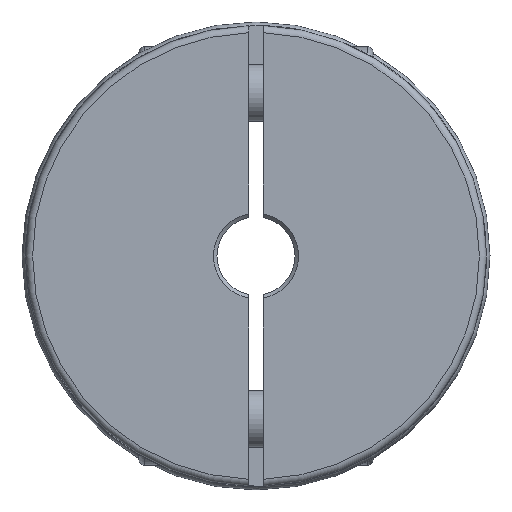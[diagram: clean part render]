
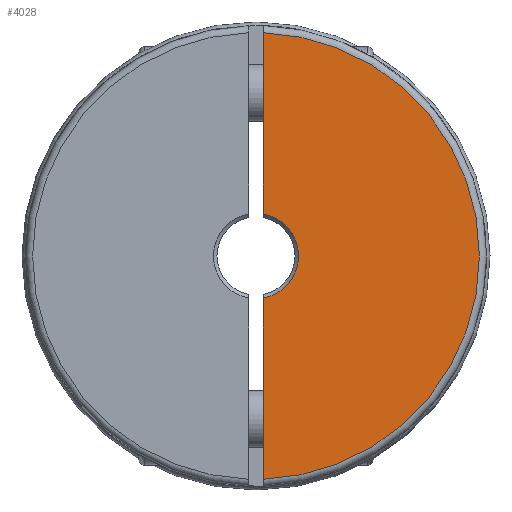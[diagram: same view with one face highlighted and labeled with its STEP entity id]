
A CAD part, left-side view. The second image highlights one B-rep face of the part: STEP entity #4028.
In plain terms, the highlighted planar face has unit normal (-1, 0, 0).
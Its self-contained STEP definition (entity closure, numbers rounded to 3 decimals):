
#90=LINE('',#6487,#226);
#99=LINE('',#6514,#235);
#226=VECTOR('',#5030,1000.);
#235=VECTOR('',#5043,1000.);
#400=PLANE('',#4369);
#1009=ORIENTED_EDGE('',*,*,#1445,.T.);
#1010=ORIENTED_EDGE('',*,*,#1384,.T.);
#1011=ORIENTED_EDGE('',*,*,#1434,.F.);
#1012=ORIENTED_EDGE('',*,*,#1463,.F.);
#1384=EDGE_CURVE('',#1691,#1689,#1901,.T.);
#1434=EDGE_CURVE('',#1736,#1689,#90,.T.);
#1445=EDGE_CURVE('',#1742,#1691,#99,.T.);
#1463=EDGE_CURVE('',#1742,#1736,#1941,.T.);
#1689=VERTEX_POINT('',#6109);
#1691=VERTEX_POINT('',#6112);
#1736=VERTEX_POINT('',#6488);
#1742=VERTEX_POINT('',#6515);
#1901=CIRCLE('',#4291,6.);
#1941=CIRCLE('',#4358,31.5);
#2189=EDGE_LOOP('',(#1009,#1010,#1011,#1012));
#2475=FACE_BOUND('',#2189,.T.);
#4028=ADVANCED_FACE('',(#2475),#400,.F.);
#4291=AXIS2_PLACEMENT_3D('',#6111,#4930,#4931);
#4358=AXIS2_PLACEMENT_3D('',#6558,#5084,#5085);
#4369=AXIS2_PLACEMENT_3D('',#6569,#5106,#5107);
#4930=DIRECTION('',(1.,0.,0.));
#4931=DIRECTION('',(0.,0.,-1.));
#5030=DIRECTION('',(0.,0.,1.));
#5043=DIRECTION('',(0.,0.,-1.));
#5084=DIRECTION('',(1.,0.,0.));
#5085=DIRECTION('',(0.,0.,-1.));
#5106=DIRECTION('',(1.,0.,0.));
#5107=DIRECTION('',(0.,0.,-1.));
#6109=CARTESIAN_POINT('',(-37.218,-1.,-5.916));
#6111=CARTESIAN_POINT('',(-37.218,0.,0.));
#6112=CARTESIAN_POINT('',(-37.218,-1.,5.916));
#6487=CARTESIAN_POINT('',(-37.218,-1.,32.5));
#6488=CARTESIAN_POINT('',(-37.218,-1.,-31.484));
#6514=CARTESIAN_POINT('',(-37.218,-1.,32.5));
#6515=CARTESIAN_POINT('',(-37.218,-1.,31.484));
#6558=CARTESIAN_POINT('',(-37.218,0.,0.));
#6569=CARTESIAN_POINT('',(-37.218,0.,32.5));
